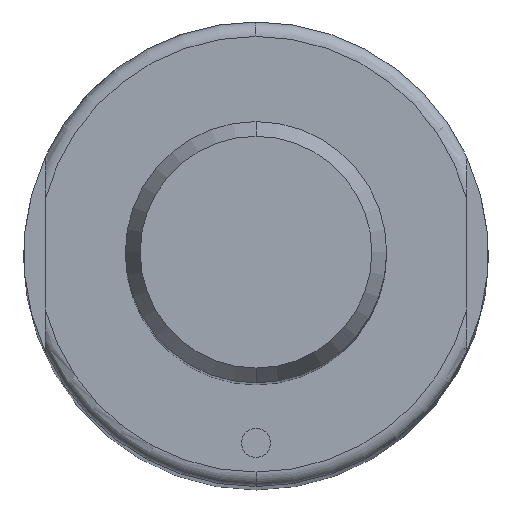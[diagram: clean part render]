
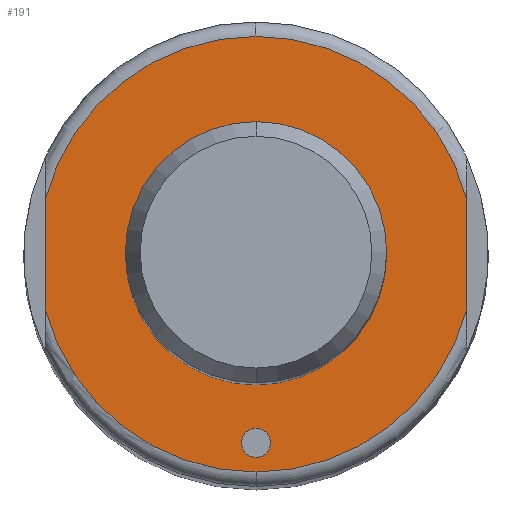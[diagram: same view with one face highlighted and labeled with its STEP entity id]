
A CAD part, top view. The second image highlights one B-rep face of the part: STEP entity #191.
In plain terms, the highlighted planar face has unit normal (0, 0, 1).
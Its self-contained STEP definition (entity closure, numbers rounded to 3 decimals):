
#115=FACE_BOUND('',#292,.T.);
#116=FACE_BOUND('',#293,.T.);
#117=FACE_BOUND('',#294,.T.);
#126=PLANE('',#862);
#191=ADVANCED_FACE('',(#115,#116,#117),#126,.T.);
#292=EDGE_LOOP('',(#515,#516,#517,#518,#519,#520));
#293=EDGE_LOOP('',(#521,#522));
#294=EDGE_LOOP('',(#523,#524));
#303=CIRCLE('',#774,9.);
#304=CIRCLE('',#776,9.);
#310=CIRCLE('',#786,1.);
#311=CIRCLE('',#788,1.);
#343=CIRCLE('',#846,15.);
#344=CIRCLE('',#848,15.);
#348=CIRCLE('',#854,15.);
#352=CIRCLE('',#860,15.);
#515=ORIENTED_EDGE('',*,*,#691,.F.);
#516=ORIENTED_EDGE('',*,*,#690,.F.);
#517=ORIENTED_EDGE('',*,*,#674,.F.);
#518=ORIENTED_EDGE('',*,*,#692,.F.);
#519=ORIENTED_EDGE('',*,*,#672,.F.);
#520=ORIENTED_EDGE('',*,*,#683,.F.);
#521=ORIENTED_EDGE('',*,*,#621,.F.);
#522=ORIENTED_EDGE('',*,*,#620,.F.);
#523=ORIENTED_EDGE('',*,*,#610,.T.);
#524=ORIENTED_EDGE('',*,*,#608,.T.);
#545=VERTEX_POINT('',#1117);
#546=VERTEX_POINT('',#1119);
#551=VERTEX_POINT('',#1138);
#554=VERTEX_POINT('',#1143);
#586=VERTEX_POINT('',#1259);
#588=VERTEX_POINT('',#1263);
#589=VERTEX_POINT('',#1274);
#591=VERTEX_POINT('',#1277);
#595=VERTEX_POINT('',#1298);
#600=VERTEX_POINT('',#1319);
#608=EDGE_CURVE('',#546,#545,#303,.T.);
#610=EDGE_CURVE('',#545,#546,#304,.T.);
#620=EDGE_CURVE('',#554,#551,#310,.T.);
#621=EDGE_CURVE('',#551,#554,#311,.T.);
#672=EDGE_CURVE('',#588,#586,#343,.T.);
#674=EDGE_CURVE('',#589,#591,#344,.T.);
#683=EDGE_CURVE('',#595,#588,#348,.T.);
#690=EDGE_CURVE('',#591,#600,#352,.T.);
#691=EDGE_CURVE('',#600,#595,#727,.T.);
#692=EDGE_CURVE('',#586,#589,#728,.T.);
#727=LINE('',#1322,#763);
#728=LINE('',#1323,#764);
#763=VECTOR('',#1089,1.);
#764=VECTOR('',#1090,1.);
#774=AXIS2_PLACEMENT_3D('',#1118,#884,#885);
#776=AXIS2_PLACEMENT_3D('',#1122,#889,#890);
#786=AXIS2_PLACEMENT_3D('',#1144,#913,#914);
#788=AXIS2_PLACEMENT_3D('',#1146,#917,#918);
#846=AXIS2_PLACEMENT_3D('',#1264,#1051,#1052);
#848=AXIS2_PLACEMENT_3D('',#1276,#1055,#1056);
#854=AXIS2_PLACEMENT_3D('',#1300,#1071,#1072);
#860=AXIS2_PLACEMENT_3D('',#1320,#1085,#1086);
#862=AXIS2_PLACEMENT_3D('',#1324,#1091,#1092);
#884=DIRECTION('',(0.,0.,-1.));
#885=DIRECTION('',(-1.,0.,0.));
#889=DIRECTION('',(0.,0.,-1.));
#890=DIRECTION('',(1.,0.,0.));
#913=DIRECTION('',(0.,0.,1.));
#914=DIRECTION('',(-1.,0.,0.));
#917=DIRECTION('',(0.,0.,1.));
#918=DIRECTION('',(1.,0.,0.));
#1051=DIRECTION('',(0.,0.,-1.));
#1052=DIRECTION('',(-1.,0.,0.));
#1055=DIRECTION('',(0.,0.,-1.));
#1056=DIRECTION('',(-1.,0.,0.));
#1071=DIRECTION('',(0.,0.,-1.));
#1072=DIRECTION('',(1.,0.,0.));
#1085=DIRECTION('',(0.,0.,-1.));
#1086=DIRECTION('',(1.,0.,0.));
#1089=DIRECTION('',(0.,1.,0.));
#1090=DIRECTION('',(0.,-1.,0.));
#1091=DIRECTION('',(0.,0.,1.));
#1092=DIRECTION('',(1.,0.,0.));
#1117=CARTESIAN_POINT('',(0.,-9.,138.));
#1118=CARTESIAN_POINT('',(0.,0.,138.));
#1119=CARTESIAN_POINT('',(0.,9.,138.));
#1122=CARTESIAN_POINT('',(0.,0.,138.));
#1138=CARTESIAN_POINT('',(0.,-12.,138.));
#1143=CARTESIAN_POINT('',(0.,-14.,138.));
#1144=CARTESIAN_POINT('',(0.,-13.,138.));
#1146=CARTESIAN_POINT('',(0.,-13.,138.));
#1259=CARTESIAN_POINT('',(14.5,3.841,138.));
#1263=CARTESIAN_POINT('',(0.,15.,138.));
#1264=CARTESIAN_POINT('',(0.,0.,138.));
#1274=CARTESIAN_POINT('',(14.5,-3.841,138.));
#1276=CARTESIAN_POINT('',(0.,0.,138.));
#1277=CARTESIAN_POINT('',(0.,-15.,138.));
#1298=CARTESIAN_POINT('',(-14.5,3.841,138.));
#1300=CARTESIAN_POINT('',(0.,0.,138.));
#1319=CARTESIAN_POINT('',(-14.5,-3.841,138.));
#1320=CARTESIAN_POINT('',(0.,0.,138.));
#1322=CARTESIAN_POINT('',(-14.5,0.,138.));
#1323=CARTESIAN_POINT('',(14.5,0.,138.));
#1324=CARTESIAN_POINT('',(0.,0.,138.));
